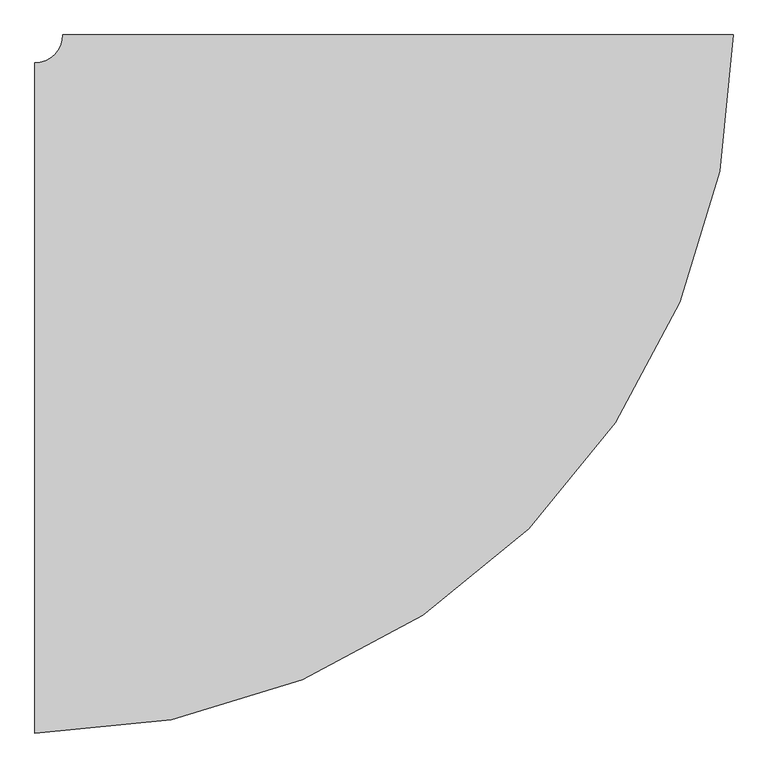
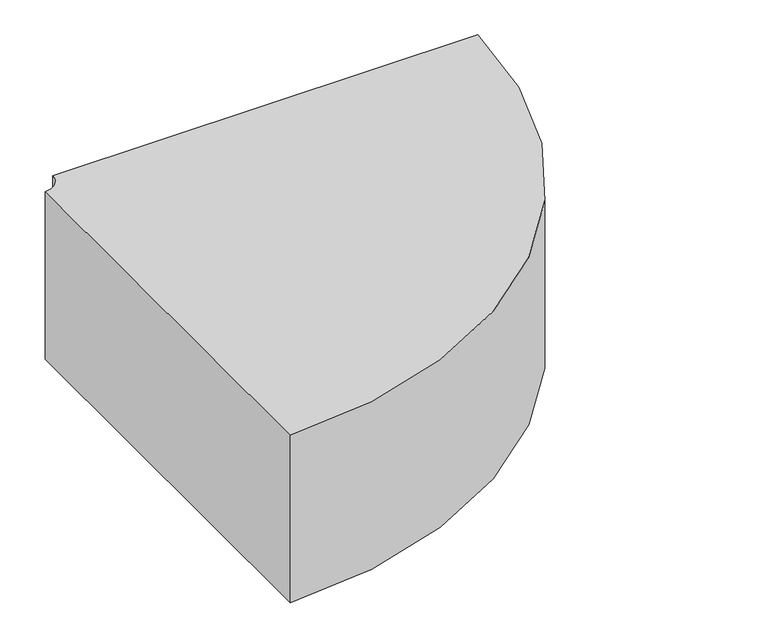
"""IFC4 building model written with IfcOpenShell, lengths in millimetres: duct fitting geometry, ADSK_ОтводВоздуховодов_Прямоугольный1 : Стандарт 2."""

from ifc_helpers import new_model, si_unit, point, frame, frame_2d, origin, place, context, project, spatial, polyline, circle_curve, trimmed, segment, composite_curve, outline, extrude, source, transform, mapped, element, save


def duct_fitting_bc71a962(model_context):
    return source(origin(), model_context, "Body", "SweptSolid", [
        extrude(outline(composite_curve([segment(trimmed(circle_curve(frame_2d((-650.0, 650.0)), 1250.0), [point((600.0, 650.0))], [point((-650.0, -600.0))], False, "CARTESIAN"), True, "CONTINUOUS"), segment(polyline([(-650.0, -600.0), (-650.0, 600.0)]), True, "CONTINUOUS"), segment(trimmed(circle_curve(frame_2d((-650.0, 650.0)), 50.0), [point((-650.0, 600.0))], [point((-600.0, 650.0))], True, "CARTESIAN"), True, "CONTINUOUS"), segment(polyline([(-600.0, 650.0), (600.0, 650.0)]), True, "CONTINUOUS")], self_intersect=False)), frame((0.0, 0.0, -250.0), z_axis=(0.0, 0.0, 1.0), x_axis=(1.0, 0.0, 0.0)), (0.0, 0.0, 1.0), 500.0),
    ])


if __name__ == "__main__":
    model = new_model("IFC4")
    model_context = context("Model", 3, world=origin())
    ifc_project = project(units=[si_unit("LENGTHUNIT", "METRE", prefix="MILLI")], contexts=[model_context])
    site = spatial("IfcSite", under=ifc_project)
    building = spatial("IfcBuilding", under=site)
    placement = place(None, origin())
    duct_fitting_shape = duct_fitting_bc71a962(model_context)
    element("IfcDuctFitting", 1, ObjectType="ADSK_ОтводВоздуховодов_Прямоугольный1 : Стандарт 2", at=placement, inside=building, context=model_context, shape_type="MappedRepresentation", body=[
        mapped(duct_fitting_shape, transform((0.0, 0.0, 0.0), x_axis=(1.0, 0.0, 0.0), y_axis=(0.0, 1.0, 0.0), z_axis=(0.0, 0.0, 1.0))),
    ])
    save(model, "model.ifc")
